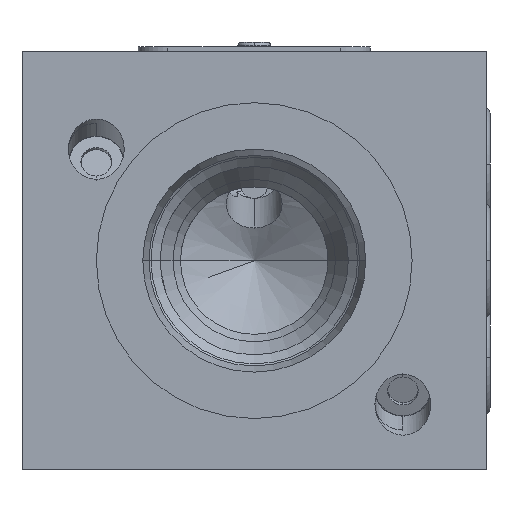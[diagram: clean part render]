
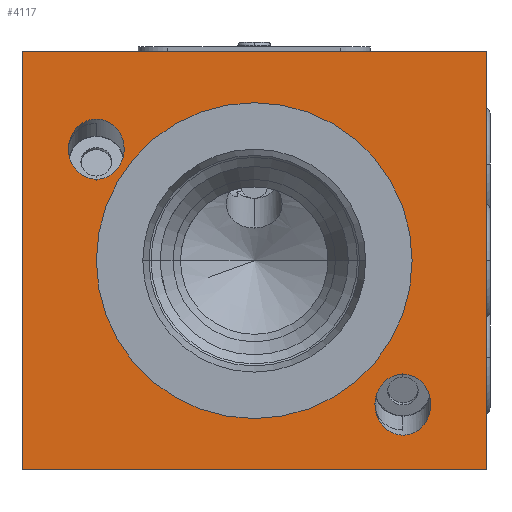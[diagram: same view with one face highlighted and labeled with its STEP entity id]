
A CAD part, left-side view. The second image highlights one B-rep face of the part: STEP entity #4117.
In plain terms, the highlighted planar face has unit normal (-1, 0, 0).
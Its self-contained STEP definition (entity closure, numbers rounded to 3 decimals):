
#55=DIRECTION('',(0.,0.,-1.));
#56=VECTOR('',#55,45.);
#57=CARTESIAN_POINT('',(0.,0.,0.));
#58=LINE('',#57,#56);
#62=DIRECTION('',(0.,1.,0.));
#63=VECTOR('',#62,50.);
#64=CARTESIAN_POINT('',(0.,0.,-45.));
#65=LINE('',#64,#63);
#69=DIRECTION('',(0.,0.,1.));
#70=VECTOR('',#69,45.);
#71=CARTESIAN_POINT('',(0.,50.,-45.));
#72=LINE('',#71,#70);
#76=DIRECTION('',(0.,-1.,0.));
#77=VECTOR('',#76,50.);
#78=CARTESIAN_POINT('',(0.,50.,0.));
#79=LINE('',#78,#77);
#83=CARTESIAN_POINT('',(0.,25.,-22.5));
#84=DIRECTION('',(1.,0.,0.));
#85=DIRECTION('',(0.,-1.,0.));
#86=AXIS2_PLACEMENT_3D('',#83,#84,#85);
#91=CARTESIAN_POINT('',(0.,25.,-22.5));
#92=DIRECTION('',(1.,0.,0.));
#93=DIRECTION('',(0.,1.,0.));
#94=AXIS2_PLACEMENT_3D('',#91,#92,#93);
#99=CARTESIAN_POINT('',(0.,9.,-34.716));
#100=CARTESIAN_POINT('',(0.,9.262,-34.716));
#101=CARTESIAN_POINT('',(0.,9.715,-34.786));
#102=CARTESIAN_POINT('',(0.,10.467,-35.082));
#103=CARTESIAN_POINT('',(0.,11.194,-35.664));
#104=CARTESIAN_POINT('',(0.,11.798,-36.632));
#105=CARTESIAN_POINT('',(0.,12.,-37.476));
#106=CARTESIAN_POINT('',(0.,12.,-38.));
#111=CARTESIAN_POINT('',(0.,45.,-10.5));
#112=CARTESIAN_POINT('',(0.,45.,-11.02));
#113=CARTESIAN_POINT('',(0.,44.795,-11.854));
#114=CARTESIAN_POINT('',(0.,44.19,-12.808));
#115=CARTESIAN_POINT('',(0.,43.311,-13.488));
#116=CARTESIAN_POINT('',(0.,42.52,-13.736));
#117=CARTESIAN_POINT('',(0.,42.,-13.736));
#2178=CARTESIAN_POINT('',(0.,45.,-10.5));
#2179=CARTESIAN_POINT('',(0.,45.,-10.002));
#2180=CARTESIAN_POINT('',(0.,44.833,-9.116));
#2181=CARTESIAN_POINT('',(0.,44.029,-8.038));
#2182=CARTESIAN_POINT('',(0.,43.17,-7.454));
#2183=CARTESIAN_POINT('',(0.,42.179,-7.212));
#2184=CARTESIAN_POINT('',(0.,41.224,-7.323));
#2185=CARTESIAN_POINT('',(0.,40.565,-7.633));
#2186=CARTESIAN_POINT('',(0.,40.139,-7.952));
#2187=CARTESIAN_POINT('',(0.,39.874,-8.207));
#2188=CARTESIAN_POINT('',(0.,39.638,-8.492));
#2189=CARTESIAN_POINT('',(0.,39.342,-8.952));
#2190=CARTESIAN_POINT('',(0.,39.055,-9.663));
#2191=CARTESIAN_POINT('',(0.,38.951,-10.693));
#2192=CARTESIAN_POINT('',(0.,39.175,-11.762));
#2193=CARTESIAN_POINT('',(0.,39.717,-12.689));
#2194=CARTESIAN_POINT('',(0.,40.717,-13.555));
#2195=CARTESIAN_POINT('',(0.,41.538,-13.736));
#2196=CARTESIAN_POINT('',(0.,42.,-13.736));
#2741=CARTESIAN_POINT('',(0.,9.,-34.716));
#2742=CARTESIAN_POINT('',(0.,8.538,-34.716));
#2743=CARTESIAN_POINT('',(0.,7.717,-34.899));
#2744=CARTESIAN_POINT('',(0.,6.717,-35.779));
#2745=CARTESIAN_POINT('',(0.,6.175,-36.719));
#2746=CARTESIAN_POINT('',(0.,5.951,-37.804));
#2747=CARTESIAN_POINT('',(0.,6.055,-38.849));
#2748=CARTESIAN_POINT('',(0.,6.342,-39.571));
#2749=CARTESIAN_POINT('',(0.,6.638,-40.038));
#2750=CARTESIAN_POINT('',(0.,6.874,-40.327));
#2751=CARTESIAN_POINT('',(0.,7.139,-40.586));
#2752=CARTESIAN_POINT('',(0.,7.565,-40.91));
#2753=CARTESIAN_POINT('',(0.,8.224,-41.224));
#2754=CARTESIAN_POINT('',(0.,9.179,-41.338));
#2755=CARTESIAN_POINT('',(0.,10.17,-41.092));
#2756=CARTESIAN_POINT('',(0.,11.029,-40.499));
#2757=CARTESIAN_POINT('',(0.,11.833,-39.404));
#2758=CARTESIAN_POINT('',(0.,12.,-38.506));
#2759=CARTESIAN_POINT('',(0.,12.,-38.));
#3669=CARTESIAN_POINT('',(0.,0.,0.));
#3670=CARTESIAN_POINT('',(0.,0.,-45.));
#3671=VERTEX_POINT('',#3669);
#3672=VERTEX_POINT('',#3670);
#3673=CARTESIAN_POINT('',(0.,50.,-45.));
#3674=VERTEX_POINT('',#3673);
#3675=CARTESIAN_POINT('',(0.,50.,0.));
#3676=VERTEX_POINT('',#3675);
#3789=CARTESIAN_POINT('',(0.,8.,-22.5));
#3790=VERTEX_POINT('',#3789);
#3791=CARTESIAN_POINT('',(0.,42.,-22.5));
#3792=VERTEX_POINT('',#3791);
#3892=CARTESIAN_POINT('',(0.,9.,-34.716));
#3893=VERTEX_POINT('',#3892);
#3902=CARTESIAN_POINT('',(0.,12.,-38.));
#3904=VERTEX_POINT('',#3902);
#3990=CARTESIAN_POINT('',(0.,42.,-13.736));
#3991=VERTEX_POINT('',#3990);
#4005=CARTESIAN_POINT('',(0.,45.,-10.5));
#4007=VERTEX_POINT('',#4005);
#4084=CARTESIAN_POINT('',(0.,0.,0.));
#4085=DIRECTION('',(1.,0.,0.));
#4086=DIRECTION('',(0.,0.,-1.));
#4087=AXIS2_PLACEMENT_3D('',#4084,#4085,#4086);
#4088=PLANE('',#4087);
#4090=ORIENTED_EDGE('',*,*,#4089,.T.);
#4092=ORIENTED_EDGE('',*,*,#4091,.T.);
#4094=ORIENTED_EDGE('',*,*,#4093,.T.);
#4096=ORIENTED_EDGE('',*,*,#4095,.T.);
#4097=EDGE_LOOP('',(#4090,#4092,#4094,#4096));
#4098=FACE_OUTER_BOUND('',#4097,.F.);
#4100=ORIENTED_EDGE('',*,*,#4099,.F.);
#4102=ORIENTED_EDGE('',*,*,#4101,.F.);
#4103=EDGE_LOOP('',(#4100,#4102));
#4104=FACE_BOUND('',#4103,.F.);
#4106=ORIENTED_EDGE('',*,*,#4105,.F.);
#4108=ORIENTED_EDGE('',*,*,#4107,.T.);
#4109=EDGE_LOOP('',(#4106,#4108));
#4110=FACE_BOUND('',#4109,.F.);
#4112=ORIENTED_EDGE('',*,*,#4111,.F.);
#4114=ORIENTED_EDGE('',*,*,#4113,.T.);
#4115=EDGE_LOOP('',(#4112,#4114));
#4116=FACE_BOUND('',#4115,.F.);
#87=CIRCLE('',#86,17.);
#95=CIRCLE('',#94,17.);
#107=B_SPLINE_CURVE_WITH_KNOTS('',3,(#99,#100,#101,#102,#103,#104,#105,#106),
.UNSPECIFIED.,.F.,.F.,(4,1,1,1,1,4),(0.,0.125,0.25,0.5,0.75,1.),
.UNSPECIFIED.);
#118=B_SPLINE_CURVE_WITH_KNOTS('',3,(#111,#112,#113,#114,#115,#116,#117),
.UNSPECIFIED.,.F.,.F.,(4,1,1,1,4),(0.,0.25,0.5,0.75,1.),
.UNSPECIFIED.);
#2197=B_SPLINE_CURVE_WITH_KNOTS('',3,(#2178,#2179,#2180,#2181,#2182,#2183,#2184,
#2185,#2186,#2187,#2188,#2189,#2190,#2191,#2192,#2193,#2194,#2195,#2196),
.UNSPECIFIED.,.F.,.F.,(4,1,1,1,1,1,1,1,1,1,1,1,1,1,1,1,4),(0.,0.125,
0.188,0.25,0.313,0.375,0.438,0.469,0.5,0.531,0.563,
0.625,0.688,0.75,0.813,0.875,1.),.UNSPECIFIED.);
#2760=B_SPLINE_CURVE_WITH_KNOTS('',3,(#2741,#2742,#2743,#2744,#2745,#2746,#2747,
#2748,#2749,#2750,#2751,#2752,#2753,#2754,#2755,#2756,#2757,#2758,#2759),
.UNSPECIFIED.,.F.,.F.,(4,1,1,1,1,1,1,1,1,1,1,1,1,1,1,1,4),(0.,0.125,
0.188,0.25,0.313,0.375,0.438,0.469,0.5,0.531,0.563,
0.625,0.688,0.75,0.813,0.875,1.),.UNSPECIFIED.);
#4089=EDGE_CURVE('',#3671,#3672,#58,.T.);
#4091=EDGE_CURVE('',#3672,#3674,#65,.T.);
#4093=EDGE_CURVE('',#3674,#3676,#72,.T.);
#4095=EDGE_CURVE('',#3676,#3671,#79,.T.);
#4099=EDGE_CURVE('',#3790,#3792,#87,.T.);
#4101=EDGE_CURVE('',#3792,#3790,#95,.T.);
#4105=EDGE_CURVE('',#3893,#3904,#2760,.T.);
#4107=EDGE_CURVE('',#3893,#3904,#107,.T.);
#4111=EDGE_CURVE('',#4007,#3991,#2197,.T.);
#4113=EDGE_CURVE('',#4007,#3991,#118,.T.);
#4117=ADVANCED_FACE('',(#4098,#4104,#4110,#4116),#4088,.F.);
